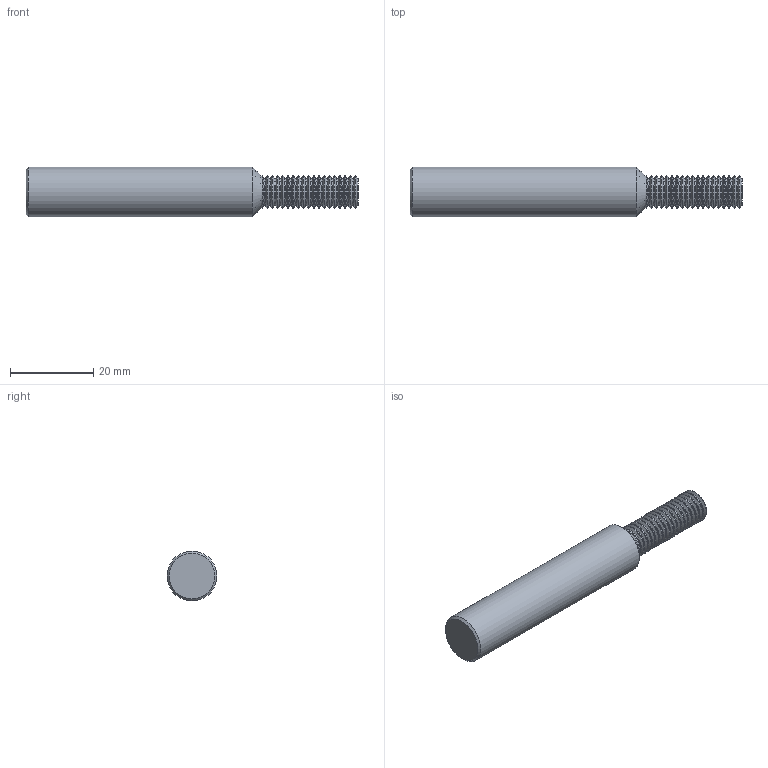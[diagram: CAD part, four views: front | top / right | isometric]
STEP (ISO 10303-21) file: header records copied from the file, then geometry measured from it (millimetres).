
FILE_DESCRIPTION(/* description */ (''),/* implementation_level */ '2;1');
FILE_NAME(/* name */ '00036506-TDM',/* time_stamp */ '2024-02-14T08:37:11+01:00',/* author */ (''),/* organization */ (''),/* preprocessor_version */ 'ST-DEVELOPER v16.5',/* originating_system */ 'HiCAD 2017 2201.0 Build 268',/* authorisation */ '');
FILE_SCHEMA (('AUTOMOTIVE_DESIGN { 1 0 10303 214 1 1 1 1 }'));
Length unit declared in the file: millimetre
Products named in the file (3): Root; ROTATIONSTEIL_1
Assembly tree (2 placements, depth 3):
  Root
    ROTATIONSTEIL_1
      ROTATIONSTEIL_1
Bounding box: 80 x 12 x 12 mm (x, y, z)
Volume: 7264.4 mm3; surface area: 3285.8 mm2
Topology: 2 solids, 2 shells, 120 faces, 237 edges, 121 vertices
Faces by surface type: cone 40, cylinder 39, torus 37, plane 4
Full cylindrical faces by diameter (mm): 6.602 x19, 7.95 x19, 12 x1
Entity records: 3624 total; most frequent: DIRECTION 484, CARTESIAN_POINT 360, AXIS2_PLACEMENT_3D 242, PRESENTATION_STYLE_ASSIGNMENT 238, COLOUR_RGB 238, DRAUGHTING_PRE_DEFINED_CURVE_FONT 236, CURVE_STYLE 236, OVER_RIDING_STYLED_ITEM 236
